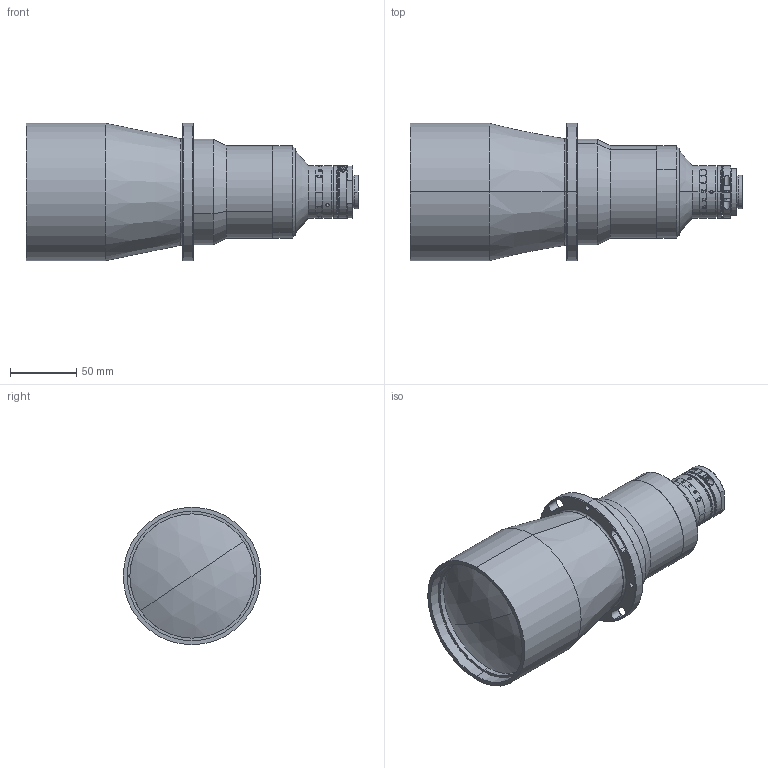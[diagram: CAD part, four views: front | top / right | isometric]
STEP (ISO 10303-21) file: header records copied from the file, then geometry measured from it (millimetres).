
FILE_DESCRIPTION (( 'STEP AP203' ), '1' );
FILE_NAME ('XF-PTL08011-0138-180C-(HD).STEP', '2018-12-21T01:57:04', ( 'canrill005' ), ( '' ), 'SwSTEP 2.0', 'SolidWorks 2014', '' );
FILE_SCHEMA (( 'CONFIG_CONTROL_DESIGN' ));
Length unit declared in the file: millimetre
Products named in the file (2): XF-PTL08011-0138-180C-(HD)
Bounding box: 251.11 x 104 x 104 mm (x, y, z)
Surface area: 96033.2 mm2 (no closed solid volume)
Topology: 0 solids, 33 shells, 179 faces, 980 edges, 843 vertices
Faces by surface type: cylinder 100, plane 45, cone 16, torus 14, sphere 4
Entity records: 15779 total; most frequent: CARTESIAN_POINT 8288, DIRECTION 1457, ORIENTED_EDGE 1315, EDGE_CURVE 980, VERTEX_POINT 843, AXIS2_PLACEMENT_3D 578, CIRCLE 397, LINE 301
